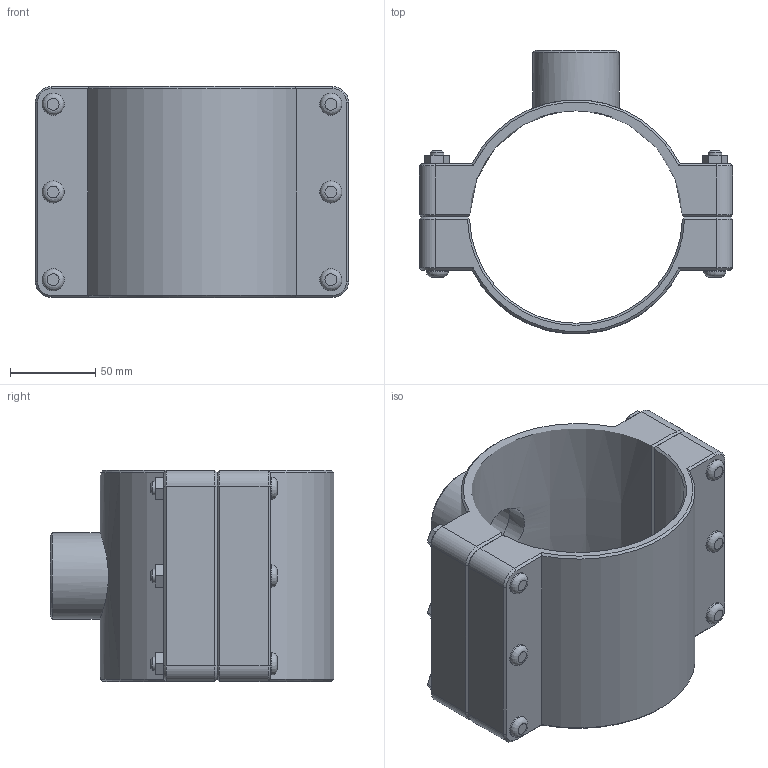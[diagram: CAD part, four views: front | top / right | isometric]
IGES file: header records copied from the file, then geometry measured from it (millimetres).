
Global section: file name: 160760125013_160860125013.ipt; native system: Autodesk Inventor 2015; preprocessor: unknown; author: KIM; date: 20170618.093550; units: millimetre
Bounding box: 184 x 166.5 x 124 mm (x, y, z)
Volume: 740726.6 mm3; surface area: 147755.2 mm2
Topology: 1 solids, 1 shells, 169 faces, 394 edges, 249 vertices
Faces by surface type: plane 100, cylinder 29, cone 27, revolution 13
Full cylindrical faces by diameter (mm): 8 x6, 13 x12, 50.638 x1
